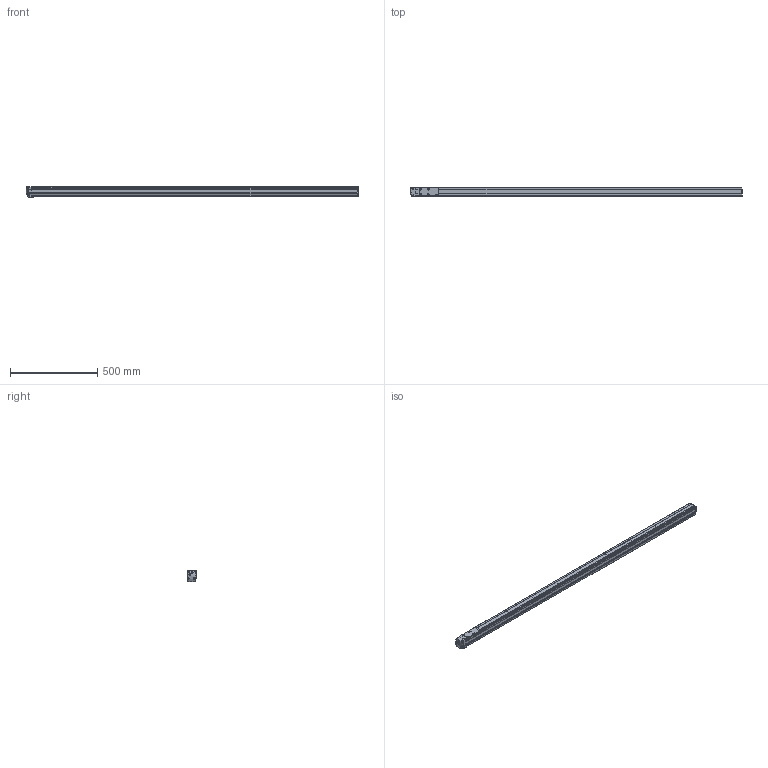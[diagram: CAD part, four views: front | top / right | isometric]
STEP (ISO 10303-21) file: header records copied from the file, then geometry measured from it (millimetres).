
FILE_DESCRIPTION(('Creo Elements/Direct Modeling STEP Export'),'2;1');
FILE_NAME('MOD-16E-T-M-Li.stp','2021-12-17T15:14:05',(''),(''),'Creo Elements/Direct Modeling STEP processor for AP214 (Solid Model)','Creo Elements/Direct Modeling 19.0G 27-Nov-2017 (C) Parametric Technology GmbH','');
FILE_SCHEMA(('AUTOMOTIVE_DESIGN { 1 0 10303 214 1 1 1 1 }'));
Length unit declared in the file: millimetre
Products named in the file (2): MOD-16E-M-Li
Assembly tree (1 placements, depth 2):
  MOD-16E-M-Li
    MOD-16E-M-Li
Bounding box: 1901.31 x 51.5 x 65.37 mm (x, y, z)
Volume: 4831820.2 mm3; surface area: 547529.8 mm2
Topology: 1 solids, 1 shells, 753 faces, 2188 edges, 1446 vertices
Faces by surface type: plane 354, cylinder 312, bspline 51, cone 16, torus 14, sphere 6
Entity records: 32623 total; most frequent: CARTESIAN_POINT 11052, ORIENTED_EDGE 4378, DIRECTION 3589, EDGE_CURVE 2187, VERTEX_POINT 1446, AXIS2_PLACEMENT_3D 1223, VECTOR 1143, LINE 1143
